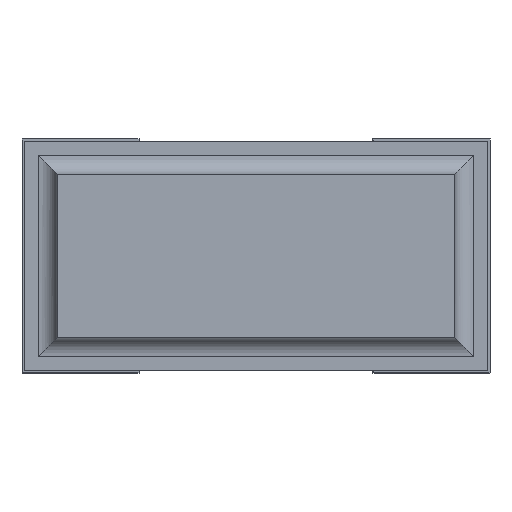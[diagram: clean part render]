
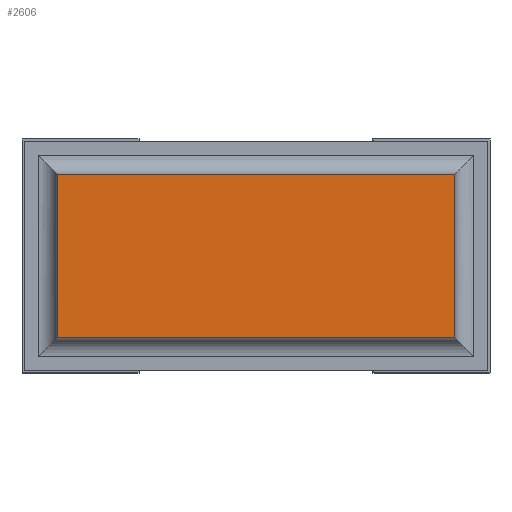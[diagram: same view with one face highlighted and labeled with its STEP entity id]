
A CAD part, front view. The second image highlights one B-rep face of the part: STEP entity #2606.
In plain terms, the highlighted planar face has unit normal (0, -1, 0).
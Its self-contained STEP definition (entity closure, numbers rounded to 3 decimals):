
#76=PLANE('',#2822);
#230=FACE_OUTER_BOUND('',#395,.T.);
#395=EDGE_LOOP('',(#2069,#2070,#2071,#2072));
#597=LINE('',#3913,#929);
#605=LINE('',#3936,#937);
#613=LINE('',#3949,#945);
#614=LINE('',#3951,#946);
#929=VECTOR('',#3201,10.);
#937=VECTOR('',#3219,10.);
#945=VECTOR('',#3233,10.);
#946=VECTOR('',#3236,10.);
#1269=VERTEX_POINT('',#3909);
#1270=VERTEX_POINT('',#3911);
#1279=VERTEX_POINT('',#3933);
#1280=VERTEX_POINT('',#3935);
#1553=EDGE_CURVE('',#1269,#1270,#597,.T.);
#1563=EDGE_CURVE('',#1279,#1280,#605,.T.);
#1571=EDGE_CURVE('',#1269,#1279,#613,.T.);
#1572=EDGE_CURVE('',#1280,#1270,#614,.T.);
#2069=ORIENTED_EDGE('',*,*,#1563,.F.);
#2070=ORIENTED_EDGE('',*,*,#1571,.F.);
#2071=ORIENTED_EDGE('',*,*,#1553,.T.);
#2072=ORIENTED_EDGE('',*,*,#1572,.F.);
#2606=ADVANCED_FACE('',(#230),#76,.T.);
#2822=AXIS2_PLACEMENT_3D('',#3950,#3234,#3235);
#3201=DIRECTION('',(0.,0.,-1.));
#3219=DIRECTION('',(0.,0.,-1.));
#3233=DIRECTION('',(1.,0.,0.));
#3234=DIRECTION('center_axis',(0.,-1.,0.));
#3235=DIRECTION('ref_axis',(0.,0.,-1.));
#3236=DIRECTION('',(-1.,0.,0.));
#3909=CARTESIAN_POINT('',(0.075,0.,0.425));
#3911=CARTESIAN_POINT('',(0.075,0.,0.075));
#3913=CARTESIAN_POINT('',(0.075,0.,0.425));
#3933=CARTESIAN_POINT('',(0.925,0.,0.425));
#3935=CARTESIAN_POINT('',(0.925,0.,0.075));
#3936=CARTESIAN_POINT('',(0.925,0.,0.425));
#3949=CARTESIAN_POINT('',(0.075,0.,0.425));
#3950=CARTESIAN_POINT('Origin',(0.926,0.,
0.25));
#3951=CARTESIAN_POINT('',(0.925,0.,0.075));
